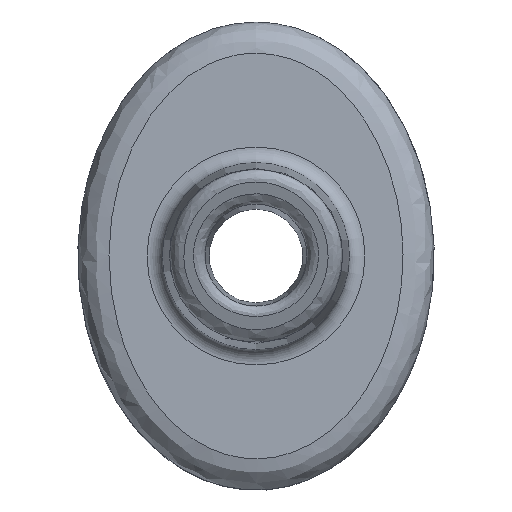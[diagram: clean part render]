
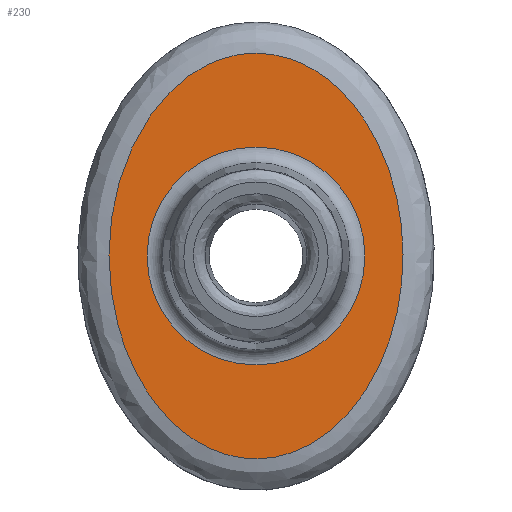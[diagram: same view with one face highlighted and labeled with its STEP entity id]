
A CAD part, top view. The second image highlights one B-rep face of the part: STEP entity #230.
In plain terms, the highlighted planar face has unit normal (0, 0, 1).
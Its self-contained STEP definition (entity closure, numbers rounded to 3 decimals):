
#33=PLANE('',#260);
#41=B_SPLINE_CURVE_WITH_KNOTS('',3,(#893,#894,#895,#896,#897,#898,#899,
#900,#901,#902,#903,#904,#905,#906,#907,#908,#909,#910),.UNSPECIFIED.,.T.,
 .F.,(4,1,1,1,1,1,1,1,1,1,1,1,1,1,1,4),(-3.142,-2.917,
-2.693,-2.244,-1.346,-1.047,
-0.449,-0.15,0.15,0.449,
0.898,1.346,2.244,2.693,2.917,
3.142),.UNSPECIFIED.);
#56=FACE_BOUND('',#91,.T.);
#67=FACE_OUTER_BOUND('',#90,.T.);
#90=EDGE_LOOP('',(#185));
#91=EDGE_LOOP('',(#186));
#109=CIRCLE('',#261,3.491);
#124=VERTEX_POINT('',#891);
#125=VERTEX_POINT('',#913);
#145=EDGE_CURVE('',#124,#124,#41,.T.);
#147=EDGE_CURVE('',#125,#125,#109,.T.);
#185=ORIENTED_EDGE('',*,*,#145,.F.);
#186=ORIENTED_EDGE('',*,*,#147,.F.);
#230=ADVANCED_FACE('',(#67,#56),#33,.F.);
#260=AXIS2_PLACEMENT_3D('',#912,#295,#296);
#261=AXIS2_PLACEMENT_3D('',#914,#297,#298);
#295=DIRECTION('center_axis',(0.,0.,-1.));
#296=DIRECTION('ref_axis',(-1.,0.,0.));
#297=DIRECTION('center_axis',(0.,0.,1.));
#298=DIRECTION('ref_axis',(-1.,0.,0.));
#891=CARTESIAN_POINT('',(0.,6.831,6.));
#893=CARTESIAN_POINT('Ctrl Pts',(0.,6.831,
6.));
#894=CARTESIAN_POINT('Ctrl Pts',(0.421,6.831,6.));
#895=CARTESIAN_POINT('Ctrl Pts',(1.263,6.667,6.));
#896=CARTESIAN_POINT('Ctrl Pts',(2.734,5.794,6.));
#897=CARTESIAN_POINT('Ctrl Pts',(4.52,3.362,6.));
#898=CARTESIAN_POINT('Ctrl Pts',(4.937,0.153,6.));
#899=CARTESIAN_POINT('Ctrl Pts',(4.137,-3.125,6.));
#900=CARTESIAN_POINT('Ctrl Pts',(2.901,-5.103,6.));
#901=CARTESIAN_POINT('Ctrl Pts',(0.872,-6.205,6.));
#902=CARTESIAN_POINT('Ctrl Pts',(-0.872,-6.2,6.));
#903=CARTESIAN_POINT('Ctrl Pts',(-2.648,-5.247,6.));
#904=CARTESIAN_POINT('Ctrl Pts',(-4.017,-3.396,6.));
#905=CARTESIAN_POINT('Ctrl Pts',(-4.974,-0.135,6.));
#906=CARTESIAN_POINT('Ctrl Pts',(-4.52,3.361,6.));
#907=CARTESIAN_POINT('Ctrl Pts',(-2.734,5.794,6.));
#908=CARTESIAN_POINT('Ctrl Pts',(-1.263,6.667,6.));
#909=CARTESIAN_POINT('Ctrl Pts',(-0.421,6.831,6.));
#910=CARTESIAN_POINT('Ctrl Pts',(0.,6.831,
6.));
#912=CARTESIAN_POINT('Origin',(0.,0.331,6.));
#913=CARTESIAN_POINT('',(3.491,0.331,6.));
#914=CARTESIAN_POINT('Origin',(0.,0.331,6.));
